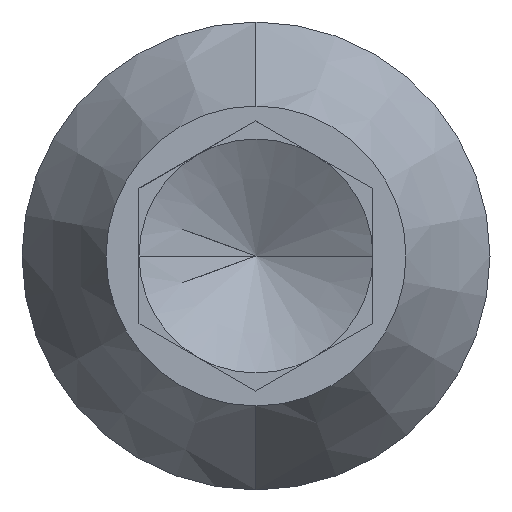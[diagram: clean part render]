
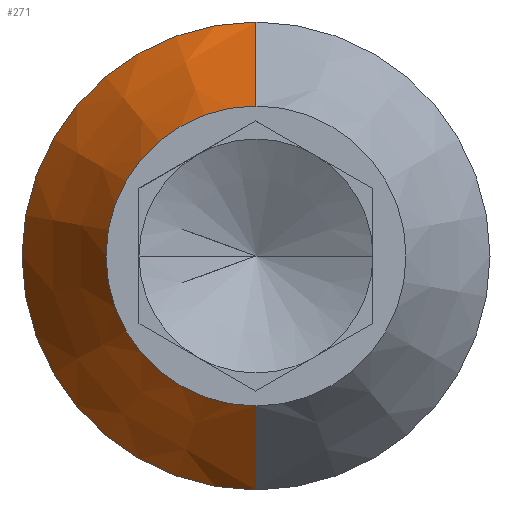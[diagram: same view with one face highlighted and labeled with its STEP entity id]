
A CAD part, left-side view. The second image highlights one B-rep face of the part: STEP entity #271.
In plain terms, the highlighted conical face has half-angle 30 degrees and reference radius 3.962 mm.
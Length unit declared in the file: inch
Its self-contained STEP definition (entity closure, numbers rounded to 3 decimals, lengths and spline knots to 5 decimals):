
#271 = ADVANCED_FACE ( 'NONE', ( #782 ), #781, .T. ) ;
#272 = EDGE_LOOP ( 'NONE', ( #273, #277, #331, #334 ) ) ;
#273 = ORIENTED_EDGE ( 'NONE', *, *, #274, .F. ) ;
#274 = EDGE_CURVE ( 'NONE', #275, #276, #836, .T. ) ;
#275 = VERTEX_POINT ( 'NONE', #831 ) ;
#276 = VERTEX_POINT ( 'NONE', #830 ) ;
#277 = ORIENTED_EDGE ( 'NONE', *, *, #278, .T. ) ;
#278 = EDGE_CURVE ( 'NONE', #275, #279, #829, .T. ) ;
#279 = VERTEX_POINT ( 'NONE', #825 ) ;
#331 = ORIENTED_EDGE ( 'NONE', *, *, #332, .F. ) ;
#332 = EDGE_CURVE ( 'NONE', #333, #279, #964, .T. ) ;
#333 = VERTEX_POINT ( 'NONE', #960 ) ;
#334 = ORIENTED_EDGE ( 'NONE', *, *, #335, .F. ) ;
#335 = EDGE_CURVE ( 'NONE', #276, #333, #959, .T. ) ;
#781 = CONICAL_SURFACE ( 'NONE', #840, 0.156, 0.524 ) ;
#782 = FACE_OUTER_BOUND ( 'NONE', #272, .T. ) ;
#825 = CARTESIAN_POINT ( 'NONE',  ( 0.09699, 0., 0.156 ) ) ;
#826 = DIRECTION ( 'NONE',  ( 0.866, 0., 0.5 ) ) ;
#827 = VECTOR ( 'NONE', #826, 39.37008 ) ;
#828 = CARTESIAN_POINT ( 'NONE',  ( 0.09699, 0., 0.156 ) ) ;
#829 = LINE ( 'NONE', #828, #827 ) ;
#830 = CARTESIAN_POINT ( 'NONE',  ( 0., 0., -0.1 ) ) ;
#831 = CARTESIAN_POINT ( 'NONE',  ( 0., 0., 0.1 ) ) ;
#832 = DIRECTION ( 'NONE',  ( 0., 0., -1. ) ) ;
#833 = DIRECTION ( 'NONE',  ( -1., 0., 0. ) ) ;
#834 = CARTESIAN_POINT ( 'NONE',  ( 0., 0., 0. ) ) ;
#835 = AXIS2_PLACEMENT_3D ( 'NONE', #834, #833, #832 ) ;
#836 = CIRCLE ( 'NONE', #835, 0.1 ) ;
#837 = DIRECTION ( 'NONE',  ( 0., 0., -1. ) ) ;
#838 = DIRECTION ( 'NONE',  ( 1., 0., 0. ) ) ;
#839 = CARTESIAN_POINT ( 'NONE',  ( 0.09699, 0., 0. ) ) ;
#840 = AXIS2_PLACEMENT_3D ( 'NONE', #839, #838, #837 ) ;
#905 = CARTESIAN_POINT ( 'NONE',  ( 0.09699, 0., 0. ) ) ;
#956 = DIRECTION ( 'NONE',  ( 0.866, 0., -0.5 ) ) ;
#957 = VECTOR ( 'NONE', #956, 39.37008 ) ;
#958 = CARTESIAN_POINT ( 'NONE',  ( 0.09699, 0., -0.156 ) ) ;
#959 = LINE ( 'NONE', #958, #957 ) ;
#960 = CARTESIAN_POINT ( 'NONE',  ( 0.09699, 0., -0.156 ) ) ;
#961 = DIRECTION ( 'NONE',  ( 0., 0., -1. ) ) ;
#962 = DIRECTION ( 'NONE',  ( 1., 0., 0. ) ) ;
#963 = AXIS2_PLACEMENT_3D ( 'NONE', #905, #962, #961 ) ;
#964 = CIRCLE ( 'NONE', #963, 0.156 ) ;
